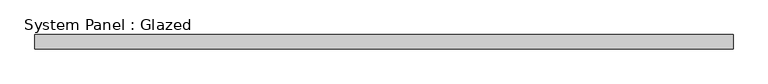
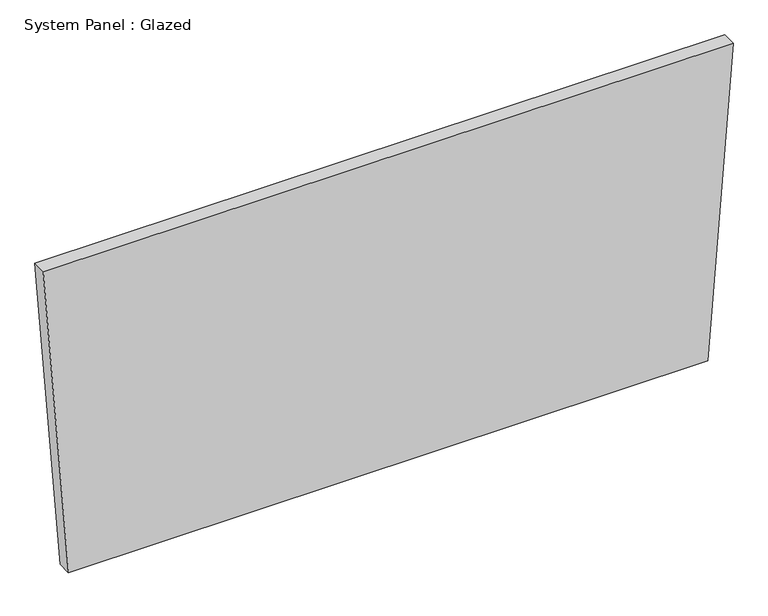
"""IFC4 building model written with IfcOpenShell, lengths in millimetres: plate geometry, System Panel : Glazed."""

from ifc_helpers import new_model, si_unit, frame, origin, place, context, project, spatial, polyline, outline, extrude, source, transform, mapped, element, save


def system_panel_glazed_aeac0244(model_context):
    return source(origin(), model_context, "Body", "SweptSolid", [
        extrude(outline(polyline([(0.0, -569.5199227), (0.0, 569.5199227), (582.3974987, 614.406303), (582.3974987, -614.406303), (0.0, -569.5199227)])), frame((0.0, -44.45, 0.0), z_axis=(0.0, 1.0, 0.0), x_axis=(0.0, 0.0, 1.0)), (0.0, 0.0, 1.0), 25.4),
    ])


if __name__ == "__main__":
    model = new_model("IFC4")
    model_context = context("Model", 3, world=origin())
    ifc_project = project(units=[si_unit("LENGTHUNIT", "METRE", prefix="MILLI")], contexts=[model_context])
    site = spatial("IfcSite", under=ifc_project)
    building = spatial("IfcBuilding", under=site)
    placement = place(None, origin())
    system_panel_glazed_shape = system_panel_glazed_aeac0244(model_context)
    element("IfcPlate", 1, ObjectType="System Panel : Glazed", at=placement, inside=building, context=model_context, shape_type="MappedRepresentation", body=[
        mapped(system_panel_glazed_shape, transform((0.0, 0.0, 0.0), x_axis=(1.0, 0.0, 0.0), y_axis=(0.0, 1.0, 0.0), z_axis=(0.0, 0.0, 1.0))),
    ])
    save(model, "model.ifc")
